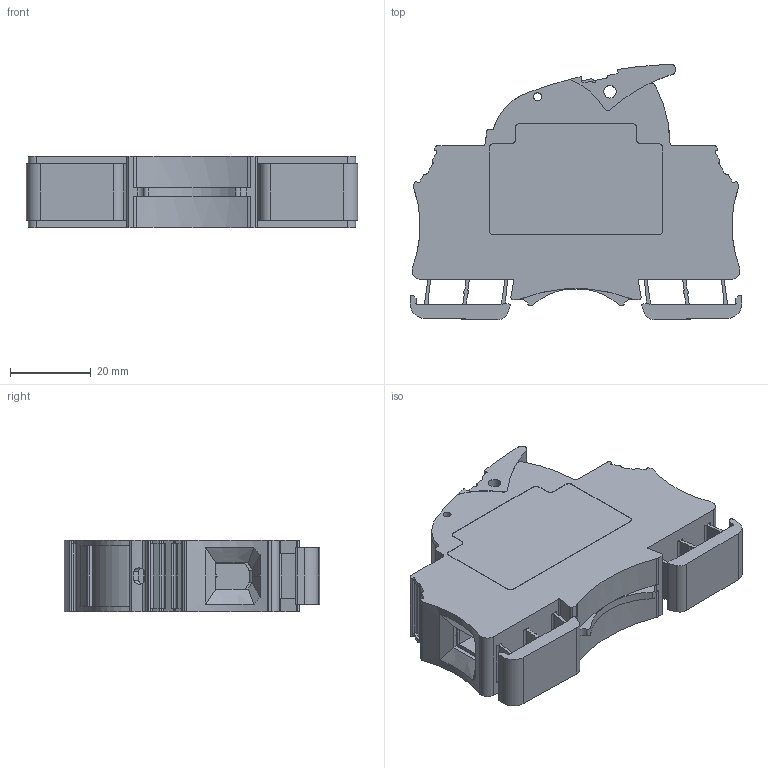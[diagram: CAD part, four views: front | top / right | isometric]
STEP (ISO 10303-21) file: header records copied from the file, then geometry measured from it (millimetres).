
FILE_DESCRIPTION(('Open CASCADE Model'),'2;1');
FILE_NAME('Open CASCADE Shape Model','2023-05-31T10:29:54',('Author'),( 'Open CASCADE'),'Open CASCADE STEP processor 6.5','Open CASCADE 6.5' ,'Unknown');
FILE_SCHEMA(('AUTOMOTIVE_DESIGN { 1 0 10303 214 1 1 1 1 }'));
Length unit declared in the file: millimetre
Products named in the file (1868): CADSOFTTOOLS 1; CADSOFTTOOLS 1.1; CADSOFTTOOLS 1.2; CADSOFTTOOLS 1.3; CADSOFTTOOLS 1.4; CADSOFTTOOLS 1.5; CADSOFTTOOLS 1.6; CADSOFTTOOLS 1.7; CADSOFTTOOLS 1.8; CADSOFTTOOLS 1.9; CADSOFTTOOLS 1.10; CADSOFTTOOLS 1.11; CADSOFTTOOLS 1.12; CADSOFTTOOLS 1.13; CADSOFTTOOLS 1.14; CADSOFTTOOLS 1.15; CADSOFTTOOLS 1.16; CADSOFTTOOLS 1.17; CADSOFTTOOLS 1.18; CADSOFTTOOLS 1.19; CADSOFTTOOLS 1.20; CADSOFTTOOLS 1.21; CADSOFTTOOLS 1.22; CADSOFTTOOLS 1.23; CADSOFTTOOLS 1.24; CADSOFTTOOLS 1.25; CADSOFTTOOLS 1.26; CADSOFTTOOLS 1.27; CADSOFTTOOLS 1.28; CADSOFTTOOLS 1.29; CADSOFTTOOLS 1.30; CADSOFTTOOLS 1.31; CADSOFTTOOLS 1.32; CADSOFTTOOLS 1.33; CADSOFTTOOLS 1.34; CADSOFTTOOLS 1.35; CADSOFTTOOLS 1.36; CADSOFTTOOLS 1.37; CADSOFTTOOLS 1.38; CADSOFTTOOLS 1.39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
Assembly tree (1867 placements, depth 2):
  CADSOFTTOOLS 1
    CADSOFTTOOLS 1.1
    CADSOFTTOOLS 1.2
    CADSOFTTOOLS 1.3
    CADSOFTTOOLS 1.4
    CADSOFTTOOLS 1.5
    CADSOFTTOOLS 1.6
    CADSOFTTOOLS 1.7
    CADSOFTTOOLS 1.8
    CADSOFTTOOLS 1.9
    CADSOFTTOOLS 1.10
    CADSOFTTOOLS 1.11
    CADSOFTTOOLS 1.12
    CADSOFTTOOLS 1.13
    CADSOFTTOOLS 1.14
    CADSOFTTOOLS 1.15
    CADSOFTTOOLS 1.16
    CADSOFTTOOLS 1.17
    CADSOFTTOOLS 1.18
    CADSOFTTOOLS 1.19
    CADSOFTTOOLS 1.20
    CADSOFTTOOLS 1.21
    CADSOFTTOOLS 1.22
    CADSOFTTOOLS 1.23
    CADSOFTTOOLS 1.24
    CADSOFTTOOLS 1.25
    CADSOFTTOOLS 1.26
    CADSOFTTOOLS 1.27
    CADSOFTTOOLS 1.28
    CADSOFTTOOLS 1.29
    CADSOFTTOOLS 1.30
    CADSOFTTOOLS 1.31
    CADSOFTTOOLS 1.32
    CADSOFTTOOLS 1.33
    CADSOFTTOOLS 1.34
    CADSOFTTOOLS 1.35
    CADSOFTTOOLS 1.36
    CADSOFTTOOLS 1.37
    CADSOFTTOOLS 1.38
    CADSOFTTOOLS 1.39
    CADSOFTTOOLS 1.40
    CADSOFTTOOLS 1.41
    CADSOFTTOOLS 1.42
    CADSOFTTOOLS 1.43
    CADSOFTTOOLS 1.44
    CADSOFTTOOLS 1.45
    CADSOFTTOOLS 1.46
    CADSOFTTOOLS 1.47
    CADSOFTTOOLS 1.48
    CADSOFTTOOLS 1.49
    CADSOFTTOOLS 1.50
    CADSOFTTOOLS 1.51
    CADSOFTTOOLS 1.52
    CADSOFTTOOLS 1.53
    CADSOFTTOOLS 1.54
    CADSOFTTOOLS 1.55
    CADSOFTTOOLS 1.56
    CADSOFTTOOLS 1.57
    CADSOFTTOOLS 1.58
    CADSOFTTOOLS 1.59
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Bounding box: 82 x 63.17 x 17.8 mm (x, y, z)
Surface area: 35535 mm2 (no closed solid volume)
Topology: 0 solids, 1867 shells, 1867 faces, 10206 edges, 10093 vertices
Faces by surface type: plane 1155, cylinder 495, extrusion 115, cone 62, bspline 20, torus 20
Full cylindrical faces by diameter (mm): 1.2 x4, 1.5 x4, 1.8 x4, 2 x2, 2.1 x8, 2.2 x2, 2.6 x4, 2.8 x2, 3 x2, 3.1 x1, 3.2 x2, 3.3 x2, 3.5 x2, 4.9 x2, 5 x2, 6.2 x4
Entity records: 276562 total; most frequent: CARTESIAN_POINT 113074, DIRECTION 25039, VECTOR 12907, LINE 12792, ORIENTED_EDGE 10319, PCURVE 10319, DEFINITIONAL_REPRESENTATION 10319, EDGE_CURVE 10206
